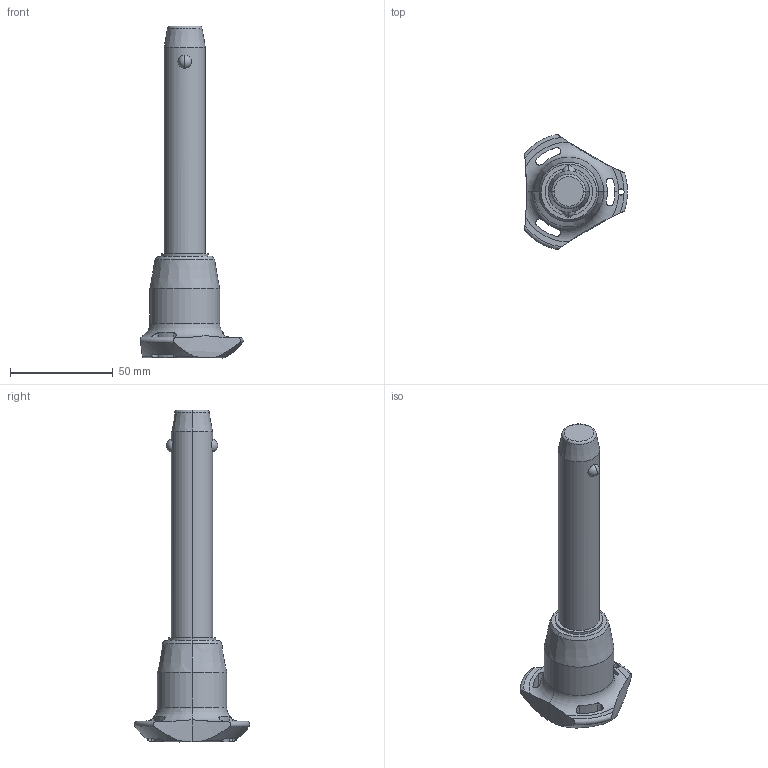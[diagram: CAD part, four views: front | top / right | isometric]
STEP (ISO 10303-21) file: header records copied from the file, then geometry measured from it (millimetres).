
FILE_DESCRIPTION (( 'STEP AP203' ), '1' );
FILE_NAME ('QR1714.M20-090-S.step', '2025-11-12T10:27:35', ( '' ), ( '' ), 'SwSTEP 2.0', 'SolidWorks 2019', '' );
FILE_SCHEMA (( 'CONFIG_CONTROL_DESIGN' ));
Length unit declared in the file: millimetre
Products named in the file (1): QR1714.M20-090-S
Bounding box: 50.04 x 56.02 x 161.2 mm (x, y, z)
Volume: 82051.3 mm3; surface area: 16622.1 mm2
Topology: 1 solids, 1 shells, 65 faces, 176 edges, 111 vertices
Faces by surface type: cylinder 30, cone 14, torus 11, sphere 6, plane 4
Entity records: 2858 total; most frequent: CARTESIAN_POINT 1179, ORIENTED_EDGE 352, DIRECTION 329, EDGE_CURVE 176, AXIS2_PLACEMENT_3D 147, VERTEX_POINT 111, CIRCLE 81, EDGE_LOOP 71
